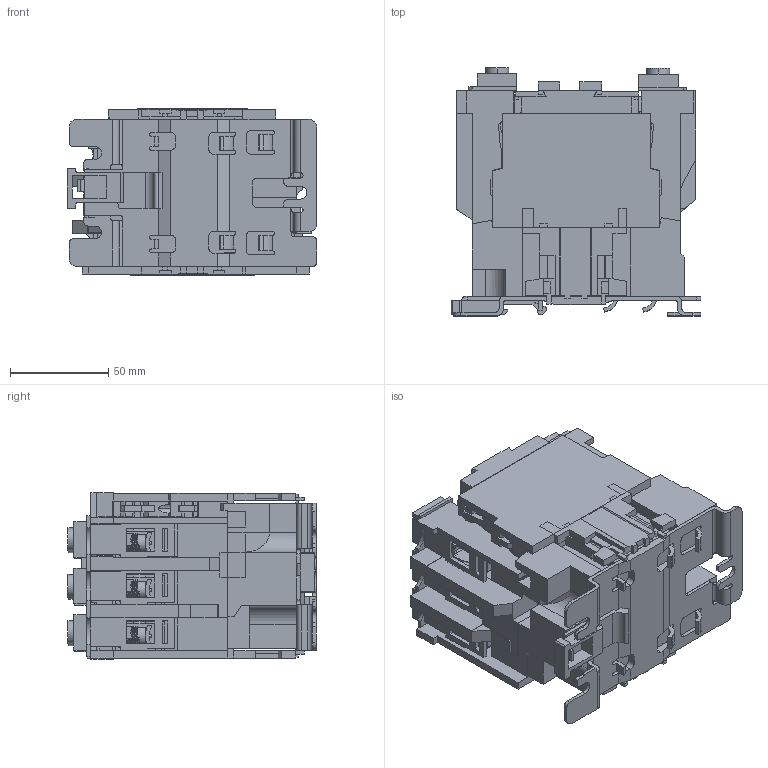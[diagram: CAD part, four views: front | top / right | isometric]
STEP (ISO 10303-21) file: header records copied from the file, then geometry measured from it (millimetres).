
FILE_DESCRIPTION (( 'STEP AP203' ), '1' );
FILE_NAME ('5160騷.STEP', '2013-11-27T07:13:44', ( 'admin' ), ( '' ), 'SwSTEP 2.0', 'SolidWorks 2007', '' );
FILE_SCHEMA (( 'CONFIG_CONTROL_DESIGN' ));
Length unit declared in the file: millimetre
Products named in the file (14): êðûøêà_Ïî óìîë÷àíèþ; Çàùèòêà_Ïî óìîë÷àíèþ; êëåìîäåðæàòåëü_Ïî óìîë÷àíèþ; Âèíò êëåìîäåðæàòåëÿ_Ïî óìîë÷àíèþ; êîíòàêò_Ïî óìîë÷àíèþ; 5160騷; îñíîâà_Ïî óìîë÷àíèþ; Êîðïóñ_Ïî óìîë÷àíèþ; êðåïëåíèå_Ïî óìîë÷àíèþ; ïðèùåïêà_Ïî óìîë÷àíèþ; Ñáîðêà êëåìîäåðæàòåëü_Ïî óìîë÷àíèþ; øàéáà êëåìîäåðæàòåëÿ_Ïî óìîë÷àíèþ; çàùèòêà 2 3_Ïî óìîë÷àíèþ; áîêîâèíêè_Ïî óìîë÷àíèþ
Assembly tree (21 placements, depth 3):
  5160騷
    êðûøêà_Ïî óìîë÷àíèþ
    Ñáîðêà êëåìîäåðæàòåëü_Ïî óìîë÷àíèþ  x6
      øàéáà êëåìîäåðæàòåëÿ_Ïî óìîë÷àíèþ
      Âèíò êëåìîäåðæàòåëÿ_Ïî óìîë÷àíèþ
      êëåìîäåðæàòåëü_Ïî óìîë÷àíèþ
      êîíòàêò_Ïî óìîë÷àíèþ
    Çàùèòêà_Ïî óìîë÷àíèþ  x2
    îñíîâà_Ïî óìîë÷àíèþ
    áîêîâèíêè_Ïî óìîë÷àíèþ  x2
    êðåïëåíèå_Ïî óìîë÷àíèþ
    ïðèùåïêà_Ïî óìîë÷àíèþ
    çàùèòêà 2 3_Ïî óìîë÷àíèþ  x2
    Êîðïóñ_Ïî óìîë÷àíèþ
Bounding box: 127.25 x 126.52 x 84.9 mm (x, y, z)
Volume: 792837 mm3; surface area: 197773.6 mm2
Topology: 41 solids, 41 shells, 1594 faces, 4470 edges, 2960 vertices
Faces by surface type: plane 1274, cylinder 296, bspline 24
Entity records: 34303 total; most frequent: CARTESIAN_POINT 8093, ORIENTED_EDGE 5320, DIRECTION 4802, EDGE_CURVE 2660, VECTOR 2304, LINE 2304, VERTEX_POINT 1760, AXIS2_PLACEMENT_3D 1249
